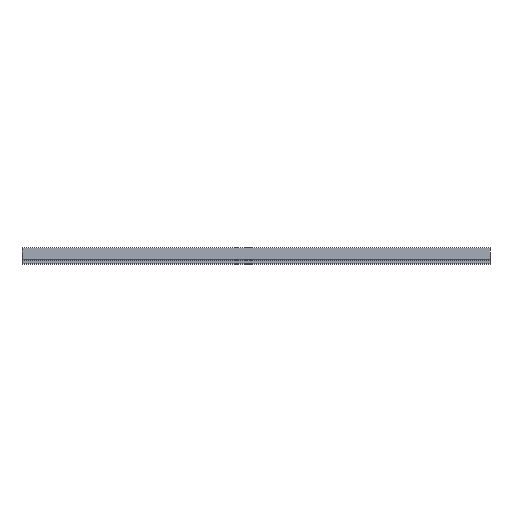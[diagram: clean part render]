
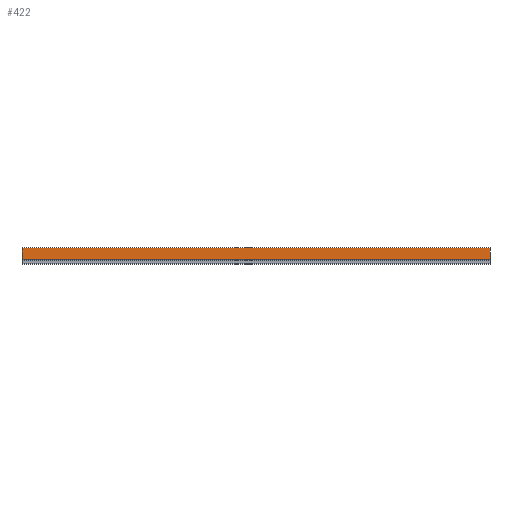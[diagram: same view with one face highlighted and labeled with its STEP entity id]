
A CAD part, left-side view. The second image highlights one B-rep face of the part: STEP entity #422.
In plain terms, the highlighted planar face has unit normal (-1, 0, 0).
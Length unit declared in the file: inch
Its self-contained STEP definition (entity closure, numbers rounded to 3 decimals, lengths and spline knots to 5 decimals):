
#25=PLANE('',#478);
#46=FACE_OUTER_BOUND('',#68,.T.);
#68=EDGE_LOOP('',(#345,#346,#347,#348));
#110=LINE('',#712,#154);
#111=LINE('',#715,#155);
#112=LINE('',#717,#156);
#113=LINE('',#718,#157);
#154=VECTOR('',#586,0.3937);
#155=VECTOR('',#589,0.3937);
#156=VECTOR('',#590,0.3937);
#157=VECTOR('',#591,0.3937);
#211=VERTEX_POINT('',#708);
#212=VERTEX_POINT('',#710);
#213=VERTEX_POINT('',#714);
#214=VERTEX_POINT('',#716);
#268=EDGE_CURVE('',#211,#212,#110,.T.);
#269=EDGE_CURVE('',#213,#211,#111,.T.);
#270=EDGE_CURVE('',#214,#212,#112,.T.);
#271=EDGE_CURVE('',#213,#214,#113,.T.);
#345=ORIENTED_EDGE('',*,*,#269,.T.);
#346=ORIENTED_EDGE('',*,*,#268,.T.);
#347=ORIENTED_EDGE('',*,*,#270,.F.);
#348=ORIENTED_EDGE('',*,*,#271,.F.);
#422=ADVANCED_FACE('',(#46),#25,.T.);
#478=AXIS2_PLACEMENT_3D('',#713,#587,#588);
#586=DIRECTION('',(0.,1.,0.));
#587=DIRECTION('center_axis',(-1.,0.,0.));
#588=DIRECTION('ref_axis',(0.,0.,1.));
#589=DIRECTION('',(0.,0.,1.));
#590=DIRECTION('',(0.,0.,1.));
#591=DIRECTION('',(0.,1.,0.));
#708=CARTESIAN_POINT('',(0.26908,0.,-0.74901));
#710=CARTESIAN_POINT('',(0.26908,120.,-0.74901));
#712=CARTESIAN_POINT('',(0.26908,0.,-0.74901));
#713=CARTESIAN_POINT('Origin',(0.26908,0.,-3.72556));
#714=CARTESIAN_POINT('',(0.26908,0.,-3.72556));
#715=CARTESIAN_POINT('',(0.26908,0.,-3.72556));
#716=CARTESIAN_POINT('',(0.26908,120.,-3.72556));
#717=CARTESIAN_POINT('',(0.26908,120.,-3.72556));
#718=CARTESIAN_POINT('',(0.26908,0.,-3.72556));
